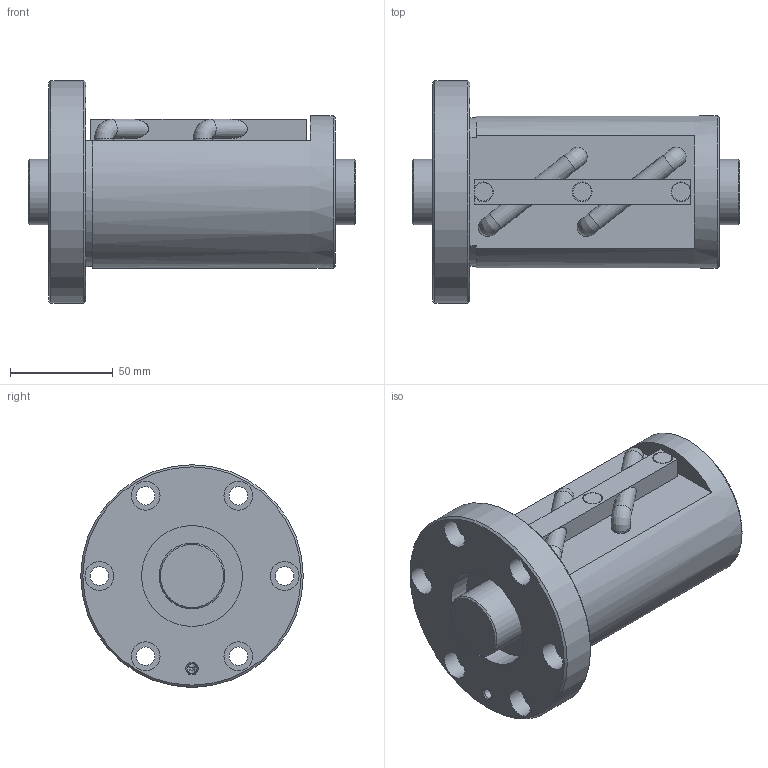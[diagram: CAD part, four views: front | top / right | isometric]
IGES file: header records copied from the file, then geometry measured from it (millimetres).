
Start section: Data from Parasolid IGES Translator 26.0.171, Copyright(c) 2006 Siemens PLM Software. All Rights Reserved.
Global section: file name: BIF3216V-5RRG0+159LC0_000.igs; native system: By Siemens PLM Incorporated; preprocessor: XPlus GENERIC/IGES 26.0.171; author: Noname; organization: Noname; date: 20240715.082329; units: millimetre
Bounding box: 159 x 108 x 108 mm (x, y, z)
Surface area: 92189 mm2 (no closed solid volume)
Topology: 0 solids, 0 shells, 99 faces, 487 edges, 443 vertices
Faces by surface type: revolution 58, extrusion 41
